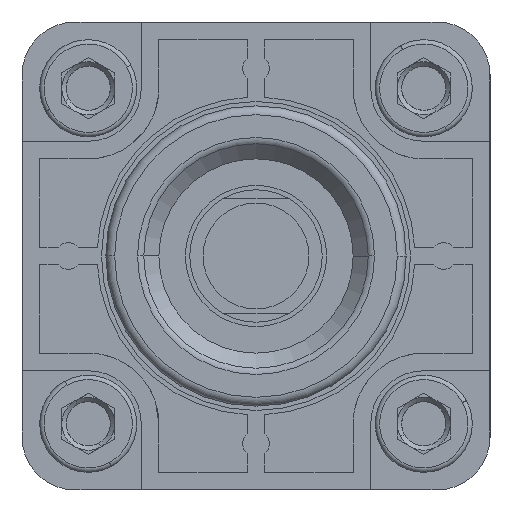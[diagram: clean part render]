
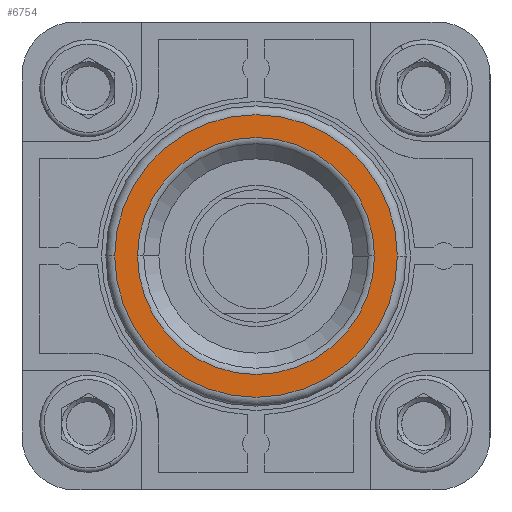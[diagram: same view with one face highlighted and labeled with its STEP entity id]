
A CAD part, left-side view. The second image highlights one B-rep face of the part: STEP entity #6754.
In plain terms, the highlighted planar face has unit normal (-1, 0, 0).
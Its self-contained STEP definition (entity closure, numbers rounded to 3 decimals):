
#5451=CARTESIAN_POINT('Vertex',(-53.5,-16.,0.)) ;
#5458=CARTESIAN_POINT('Vertex',(-53.5,16.,0.)) ;
#5461=CARTESIAN_POINT('Axis2P3D Location',(-53.5,0.,0.)) ;
#5478=CARTESIAN_POINT('Axis2P3D Location',(-53.5,0.,0.)) ;
#6727=CARTESIAN_POINT('Axis2P3D Location',(-53.5,0.,0.)) ;
#6736=CARTESIAN_POINT('Axis2P3D Location',(-53.5,0.,0.)) ;
#6740=CARTESIAN_POINT('Vertex',(-53.5,13.414,0.)) ;
#6742=CARTESIAN_POINT('Vertex',(-53.5,-13.414,0.)) ;
#6745=CARTESIAN_POINT('Axis2P3D Location',(-53.5,0.,0.)) ;
#5462=DIRECTION('Axis2P3D Direction',(-1.,-0.,0.)) ;
#5479=DIRECTION('Axis2P3D Direction',(-1.,0.,0.)) ;
#6728=DIRECTION('Axis2P3D Direction',(-1.,0.,0.)) ;
#6729=DIRECTION('Axis2P3D XDirection',(0.,-1.,0.)) ;
#6737=DIRECTION('Axis2P3D Direction',(-1.,0.,0.)) ;
#6746=DIRECTION('Axis2P3D Direction',(-1.,0.,0.)) ;
#5463=AXIS2_PLACEMENT_3D('Circle Axis2P3D',#5461,#5462,$) ;
#5480=AXIS2_PLACEMENT_3D('Circle Axis2P3D',#5478,#5479,$) ;
#6730=AXIS2_PLACEMENT_3D('Plane Axis2P3D',#6727,#6728,#6729) ;
#6738=AXIS2_PLACEMENT_3D('Circle Axis2P3D',#6736,#6737,$) ;
#6747=AXIS2_PLACEMENT_3D('Circle Axis2P3D',#6745,#6746,$) ;
#5464=CIRCLE('generated circle',#5463,16.) ;
#5481=CIRCLE('generated circle',#5480,16.) ;
#6739=CIRCLE('generated circle',#6738,13.414) ;
#6748=CIRCLE('generated circle',#6747,13.414) ;
#6731=PLANE('',#6730) ;
#6753=FACE_BOUND('',#6750,.T.) ;
#5465=EDGE_CURVE('',#5452,#5459,#5464,.T.) ;
#5482=EDGE_CURVE('',#5459,#5452,#5481,.T.) ;
#6744=EDGE_CURVE('',#6741,#6743,#6739,.F.) ;
#6749=EDGE_CURVE('',#6743,#6741,#6748,.F.) ;
#6732=EDGE_LOOP('',(#6733,#6734)) ;
#6750=EDGE_LOOP('',(#6751,#6752)) ;
#6733=ORIENTED_EDGE('',*,*,#5482,.T.) ;
#6734=ORIENTED_EDGE('',*,*,#5465,.T.) ;
#6751=ORIENTED_EDGE('',*,*,#6744,.T.) ;
#6752=ORIENTED_EDGE('',*,*,#6749,.T.) ;
#5452=VERTEX_POINT('',#5451) ;
#5459=VERTEX_POINT('',#5458) ;
#6741=VERTEX_POINT('',#6740) ;
#6743=VERTEX_POINT('',#6742) ;
#6754=ADVANCED_FACE('PartBody',(#6735,#6753),#6731,.T.) ;
#6735=FACE_OUTER_BOUND('',#6732,.T.) ;
